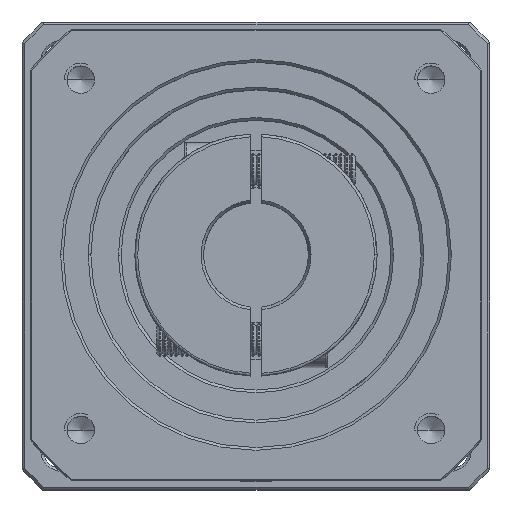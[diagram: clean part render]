
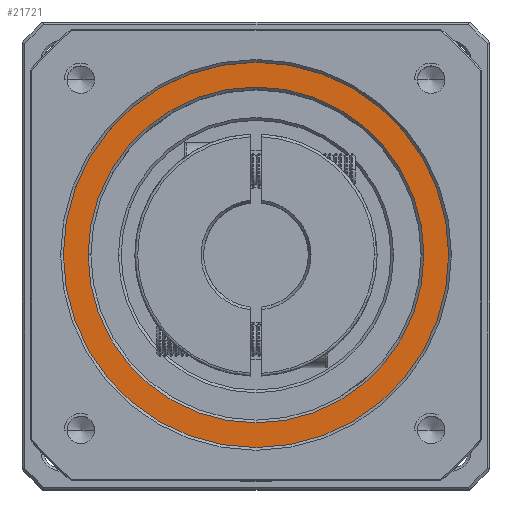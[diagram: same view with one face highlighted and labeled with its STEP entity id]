
A CAD part, top view. The second image highlights one B-rep face of the part: STEP entity #21721.
In plain terms, the highlighted planar face has unit normal (0, 0, 1).
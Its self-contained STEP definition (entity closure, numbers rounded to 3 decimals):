
#3583 = EDGE_LOOP ( 'NONE', ( #15719, #99063 ) ) ;
#9130 = DIRECTION ( 'NONE',  ( 0., 0., 1. ) ) ;
#15719 = ORIENTED_EDGE ( 'NONE', *, *, #19502, .T. ) ;
#16040 = CIRCLE ( 'NONE', #122175, 30.5 ) ;
#19502 = EDGE_CURVE ( 'NONE', #121557, #40183, #57286, .T. ) ;
#21265 = DIRECTION ( 'NONE',  ( 1., 0., 0. ) ) ;
#21714 = DIRECTION ( 'NONE',  ( 0., 0., -1. ) ) ;
#21721 = ADVANCED_FACE ( 'NONE', ( #65851, #124894 ), #67301, .T. ) ;
#25405 = DIRECTION ( 'NONE',  ( 1., 0., 0. ) ) ;
#31365 = AXIS2_PLACEMENT_3D ( 'NONE', #114295, #125550, #25405 ) ;
#32006 = ORIENTED_EDGE ( 'NONE', *, *, #127899, .T. ) ;
#36671 = EDGE_LOOP ( 'NONE', ( #32006, #103431 ) ) ;
#40183 = VERTEX_POINT ( 'NONE', #75009 ) ;
#46318 = DIRECTION ( 'NONE',  ( 0., 0., 1. ) ) ;
#50282 = CARTESIAN_POINT ( 'NONE',  ( -50.756, 39.269, -4.755 ) ) ;
#52095 = EDGE_CURVE ( 'NONE', #120927, #99059, #77961, .T. ) ;
#57286 = CIRCLE ( 'NONE', #31365, 30.5 ) ;
#57553 = CARTESIAN_POINT ( 'NONE',  ( -50.756, 39.269, -4.755 ) ) ;
#58548 = DIRECTION ( 'NONE',  ( 1., 0., 0. ) ) ;
#62413 = AXIS2_PLACEMENT_3D ( 'NONE', #77302, #9130, #58548 ) ;
#65851 = FACE_OUTER_BOUND ( 'NONE', #36671, .T. ) ;
#67301 = PLANE ( 'NONE',  #62413 ) ;
#70446 = DIRECTION ( 'NONE',  ( 0., 0., 1. ) ) ;
#71528 = AXIS2_PLACEMENT_3D ( 'NONE', #72178, #70446, #71749 ) ;
#71749 = DIRECTION ( 'NONE',  ( 1., 0., 0. ) ) ;
#72178 = CARTESIAN_POINT ( 'NONE',  ( -50.756, 39.269, -4.755 ) ) ;
#72718 = AXIS2_PLACEMENT_3D ( 'NONE', #57553, #46318, #128745 ) ;
#73218 = CIRCLE ( 'NONE', #72718, 35. ) ;
#75009 = CARTESIAN_POINT ( 'NONE',  ( -81.256, 39.269, -4.755 ) ) ;
#77302 = CARTESIAN_POINT ( 'NONE',  ( -50.756, 39.269, -4.755 ) ) ;
#77961 = CIRCLE ( 'NONE', #71528, 35. ) ;
#93890 = EDGE_CURVE ( 'NONE', #40183, #121557, #16040, .T. ) ;
#97303 = CARTESIAN_POINT ( 'NONE',  ( -15.756, 39.269, -4.755 ) ) ;
#99059 = VERTEX_POINT ( 'NONE', #97303 ) ;
#99063 = ORIENTED_EDGE ( 'NONE', *, *, #93890, .T. ) ;
#103431 = ORIENTED_EDGE ( 'NONE', *, *, #52095, .T. ) ;
#114295 = CARTESIAN_POINT ( 'NONE',  ( -50.756, 39.269, -4.755 ) ) ;
#120927 = VERTEX_POINT ( 'NONE', #127444 ) ;
#121557 = VERTEX_POINT ( 'NONE', #128237 ) ;
#122175 = AXIS2_PLACEMENT_3D ( 'NONE', #50282, #21714, #21265 ) ;
#124894 = FACE_BOUND ( 'NONE', #3583, .T. ) ;
#125550 = DIRECTION ( 'NONE',  ( 0., 0., -1. ) ) ;
#127444 = CARTESIAN_POINT ( 'NONE',  ( -85.756, 39.269, -4.755 ) ) ;
#127899 = EDGE_CURVE ( 'NONE', #99059, #120927, #73218, .T. ) ;
#128237 = CARTESIAN_POINT ( 'NONE',  ( -20.256, 39.269, -4.755 ) ) ;
#128745 = DIRECTION ( 'NONE',  ( 1., 0., 0. ) ) ;
